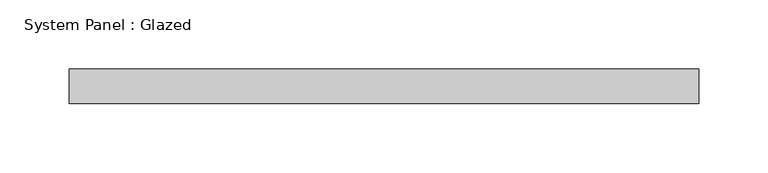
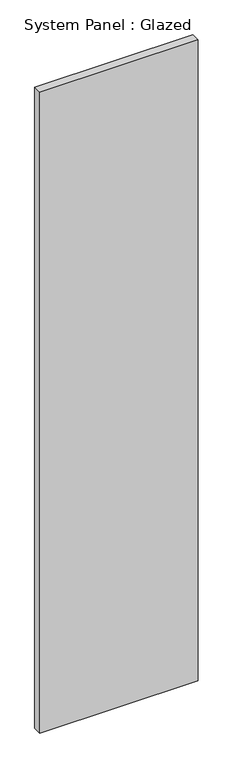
"""IFC4 building model written with IfcOpenShell, lengths in millimetres: plate geometry, System Panel : Glazed."""

from ifc_helpers import new_model, si_unit, origin, origin_with_axes, place, context, project, spatial, polyline, outline, extrude, source, transform, mapped, element, save


def system_panel_glazed_7898dc84(model_context):
    return source(origin(), model_context, "Body", "SweptSolid", [
        extrude(outline(polyline([(227.6287053, 24.5), (-227.6287053, 24.5), (-227.6287053, 49.5), (227.6287053, 49.5), (227.6287053, 24.5)])), origin_with_axes(), (0.0, 0.0, 1.0), 1950.0),
    ])


if __name__ == "__main__":
    model = new_model("IFC4")
    model_context = context("Model", 3, world=origin())
    ifc_project = project(units=[si_unit("LENGTHUNIT", "METRE", prefix="MILLI")], contexts=[model_context])
    site = spatial("IfcSite", under=ifc_project)
    building = spatial("IfcBuilding", under=site)
    placement = place(None, origin())
    system_panel_glazed_shape = system_panel_glazed_7898dc84(model_context)
    element("IfcPlate", 1, ObjectType="System Panel : Glazed", at=placement, inside=building, context=model_context, shape_type="MappedRepresentation", body=[
        mapped(system_panel_glazed_shape, transform((0.0, 0.0, 0.0), x_axis=(1.0, 0.0, 0.0), y_axis=(0.0, 1.0, 0.0), z_axis=(0.0, 0.0, 1.0))),
    ])
    save(model, "model.ifc")
